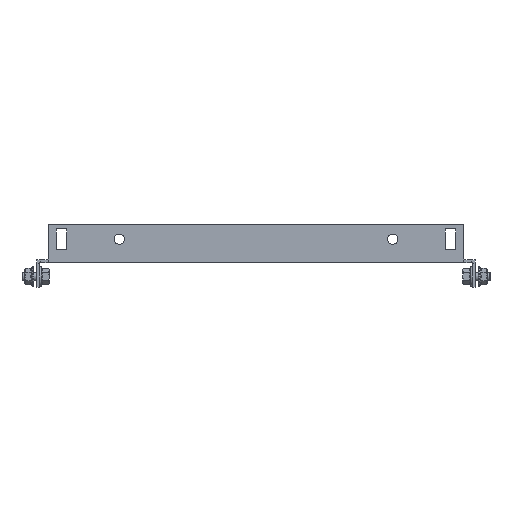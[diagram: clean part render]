
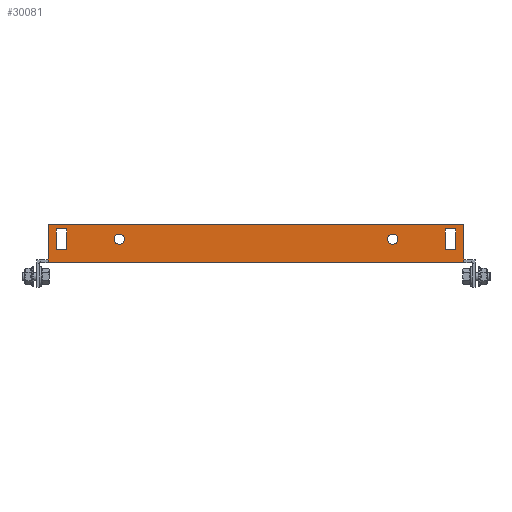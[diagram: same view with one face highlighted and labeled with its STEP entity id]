
A CAD part, front view. The second image highlights one B-rep face of the part: STEP entity #30081.
In plain terms, the highlighted planar face has unit normal (0, -1, 0).
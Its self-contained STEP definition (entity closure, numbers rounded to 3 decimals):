
#26614 = VERTEX_POINT('',#26615);
#26615 = CARTESIAN_POINT('',(142.,-234.5,0.));
#26621 = EDGE_CURVE('',#26622,#26614,#26624,.T.);
#26622 = VERTEX_POINT('',#26623);
#26623 = CARTESIAN_POINT('',(-142.,-234.5,0.));
#26624 = LINE('',#26625,#26626);
#26625 = CARTESIAN_POINT('',(-142.,-234.5,0.));
#26626 = VECTOR('',#26627,1.);
#26627 = DIRECTION('',(1.,-0.,-0.));
#29960 = VERTEX_POINT('',#29961);
#29961 = CARTESIAN_POINT('',(-142.,-234.5,2.6));
#29976 = EDGE_CURVE('',#29960,#26622,#29977,.T.);
#29977 = LINE('',#29978,#29979);
#29978 = CARTESIAN_POINT('',(-142.,-234.5,2.6));
#29979 = VECTOR('',#29980,1.);
#29980 = DIRECTION('',(0.,0.,-1.));
#30000 = VERTEX_POINT('',#30001);
#30001 = CARTESIAN_POINT('',(142.,-234.5,2.6));
#30007 = EDGE_CURVE('',#30000,#26614,#30008,.T.);
#30008 = LINE('',#30009,#30010);
#30009 = CARTESIAN_POINT('',(142.,-234.5,2.));
#30010 = VECTOR('',#30011,1.);
#30011 = DIRECTION('',(-0.,0.,-1.));
#30033 = VERTEX_POINT('',#30034);
#30034 = CARTESIAN_POINT('',(142.,-234.5,26.));
#30040 = EDGE_CURVE('',#30000,#30033,#30041,.T.);
#30041 = LINE('',#30042,#30043);
#30042 = CARTESIAN_POINT('',(142.,-234.5,26.));
#30043 = VECTOR('',#30044,1.);
#30044 = DIRECTION('',(-0.,0.,1.));
#30055 = EDGE_CURVE('',#30056,#29960,#30058,.T.);
#30056 = VERTEX_POINT('',#30057);
#30057 = CARTESIAN_POINT('',(-142.,-234.5,26.));
#30058 = LINE('',#30059,#30060);
#30059 = CARTESIAN_POINT('',(-142.,-234.5,2.));
#30060 = VECTOR('',#30061,1.);
#30061 = DIRECTION('',(-0.,0.,-1.));
#30081 = ADVANCED_FACE('',(#30082,#30116,#30127,#30138,#30172),#30185,
  .F.);
#30082 = FACE_BOUND('',#30083,.T.);
#30083 = EDGE_LOOP('',(#30084,#30094,#30102,#30110));
#30084 = ORIENTED_EDGE('',*,*,#30085,.F.);
#30085 = EDGE_CURVE('',#30086,#30088,#30090,.T.);
#30086 = VERTEX_POINT('',#30087);
#30087 = CARTESIAN_POINT('',(136.5,-234.5,9.));
#30088 = VERTEX_POINT('',#30089);
#30089 = CARTESIAN_POINT('',(136.5,-234.5,23.));
#30090 = LINE('',#30091,#30092);
#30091 = CARTESIAN_POINT('',(136.5,-234.5,23.));
#30092 = VECTOR('',#30093,1.);
#30093 = DIRECTION('',(-0.,0.,1.));
#30094 = ORIENTED_EDGE('',*,*,#30095,.F.);
#30095 = EDGE_CURVE('',#30096,#30086,#30098,.T.);
#30096 = VERTEX_POINT('',#30097);
#30097 = CARTESIAN_POINT('',(129.5,-234.5,9.));
#30098 = LINE('',#30099,#30100);
#30099 = CARTESIAN_POINT('',(136.5,-234.5,9.));
#30100 = VECTOR('',#30101,1.);
#30101 = DIRECTION('',(1.,-0.,-0.));
#30102 = ORIENTED_EDGE('',*,*,#30103,.F.);
#30103 = EDGE_CURVE('',#30104,#30096,#30106,.T.);
#30104 = VERTEX_POINT('',#30105);
#30105 = CARTESIAN_POINT('',(129.5,-234.5,23.));
#30106 = LINE('',#30107,#30108);
#30107 = CARTESIAN_POINT('',(129.5,-234.5,9.));
#30108 = VECTOR('',#30109,1.);
#30109 = DIRECTION('',(0.,0.,-1.));
#30110 = ORIENTED_EDGE('',*,*,#30111,.F.);
#30111 = EDGE_CURVE('',#30088,#30104,#30112,.T.);
#30112 = LINE('',#30113,#30114);
#30113 = CARTESIAN_POINT('',(129.5,-234.5,23.));
#30114 = VECTOR('',#30115,1.);
#30115 = DIRECTION('',(-1.,-0.,-0.));
#30116 = FACE_BOUND('',#30117,.T.);
#30117 = EDGE_LOOP('',(#30118));
#30118 = ORIENTED_EDGE('',*,*,#30119,.F.);
#30119 = EDGE_CURVE('',#30120,#30120,#30122,.T.);
#30120 = VERTEX_POINT('',#30121);
#30121 = CARTESIAN_POINT('',(93.5,-234.5,19.5));
#30122 = CIRCLE('',#30123,3.5);
#30123 = AXIS2_PLACEMENT_3D('',#30124,#30125,#30126);
#30124 = CARTESIAN_POINT('',(93.5,-234.5,16.));
#30125 = DIRECTION('',(0.,-1.,0.));
#30126 = DIRECTION('',(0.,0.,1.));
#30127 = FACE_BOUND('',#30128,.T.);
#30128 = EDGE_LOOP('',(#30129));
#30129 = ORIENTED_EDGE('',*,*,#30130,.F.);
#30130 = EDGE_CURVE('',#30131,#30131,#30133,.T.);
#30131 = VERTEX_POINT('',#30132);
#30132 = CARTESIAN_POINT('',(-93.5,-234.5,12.5));
#30133 = CIRCLE('',#30134,3.5);
#30134 = AXIS2_PLACEMENT_3D('',#30135,#30136,#30137);
#30135 = CARTESIAN_POINT('',(-93.5,-234.5,16.));
#30136 = DIRECTION('',(0.,-1.,0.));
#30137 = DIRECTION('',(0.,0.,-1.));
#30138 = FACE_BOUND('',#30139,.T.);
#30139 = EDGE_LOOP('',(#30140,#30150,#30158,#30166));
#30140 = ORIENTED_EDGE('',*,*,#30141,.F.);
#30141 = EDGE_CURVE('',#30142,#30144,#30146,.T.);
#30142 = VERTEX_POINT('',#30143);
#30143 = CARTESIAN_POINT('',(-136.5,-234.5,23.));
#30144 = VERTEX_POINT('',#30145);
#30145 = CARTESIAN_POINT('',(-136.5,-234.5,9.));
#30146 = LINE('',#30147,#30148);
#30147 = CARTESIAN_POINT('',(-136.5,-234.5,9.));
#30148 = VECTOR('',#30149,1.);
#30149 = DIRECTION('',(-0.,0.,-1.));
#30150 = ORIENTED_EDGE('',*,*,#30151,.F.);
#30151 = EDGE_CURVE('',#30152,#30142,#30154,.T.);
#30152 = VERTEX_POINT('',#30153);
#30153 = CARTESIAN_POINT('',(-129.5,-234.5,23.));
#30154 = LINE('',#30155,#30156);
#30155 = CARTESIAN_POINT('',(-136.5,-234.5,23.));
#30156 = VECTOR('',#30157,1.);
#30157 = DIRECTION('',(-1.,-0.,-0.));
#30158 = ORIENTED_EDGE('',*,*,#30159,.F.);
#30159 = EDGE_CURVE('',#30160,#30152,#30162,.T.);
#30160 = VERTEX_POINT('',#30161);
#30161 = CARTESIAN_POINT('',(-129.5,-234.5,9.));
#30162 = LINE('',#30163,#30164);
#30163 = CARTESIAN_POINT('',(-129.5,-234.5,23.));
#30164 = VECTOR('',#30165,1.);
#30165 = DIRECTION('',(-0.,0.,1.));
#30166 = ORIENTED_EDGE('',*,*,#30167,.F.);
#30167 = EDGE_CURVE('',#30144,#30160,#30168,.T.);
#30168 = LINE('',#30169,#30170);
#30169 = CARTESIAN_POINT('',(-129.5,-234.5,9.));
#30170 = VECTOR('',#30171,1.);
#30171 = DIRECTION('',(1.,-0.,-0.));
#30172 = FACE_BOUND('',#30173,.T.);
#30173 = EDGE_LOOP('',(#30174,#30175,#30176,#30177,#30178,#30179));
#30174 = ORIENTED_EDGE('',*,*,#30055,.T.);
#30175 = ORIENTED_EDGE('',*,*,#29976,.T.);
#30176 = ORIENTED_EDGE('',*,*,#26621,.T.);
#30177 = ORIENTED_EDGE('',*,*,#30007,.F.);
#30178 = ORIENTED_EDGE('',*,*,#30040,.T.);
#30179 = ORIENTED_EDGE('',*,*,#30180,.T.);
#30180 = EDGE_CURVE('',#30033,#30056,#30181,.T.);
#30181 = LINE('',#30182,#30183);
#30182 = CARTESIAN_POINT('',(-142.,-234.5,26.));
#30183 = VECTOR('',#30184,1.);
#30184 = DIRECTION('',(-1.,-0.,-0.));
#30185 = PLANE('',#30186);
#30186 = AXIS2_PLACEMENT_3D('',#30187,#30188,#30189);
#30187 = CARTESIAN_POINT('',(142.,-234.5,2.));
#30188 = DIRECTION('',(-0.,1.,0.));
#30189 = DIRECTION('',(0.,0.,1.));
